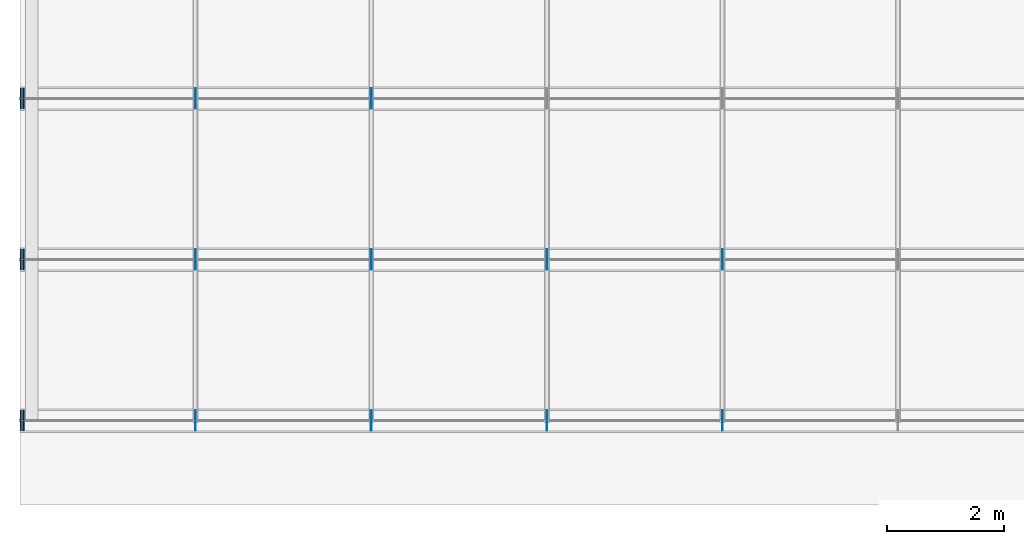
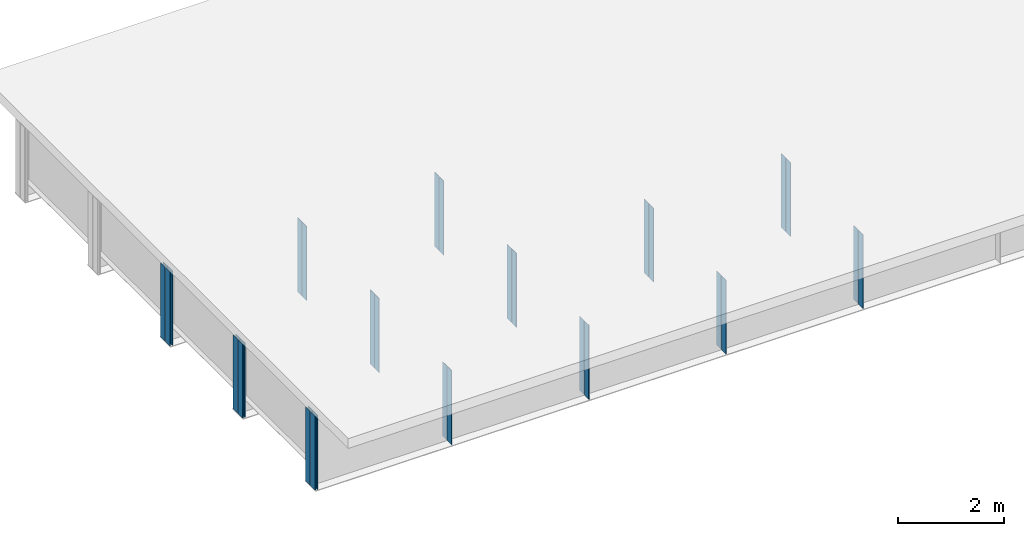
# One storey, part 3 of 17: 32 plates.
"""IFC4 building model written with IfcOpenShell, lengths in metres."""

from ifc_helpers import new_model, si_unit, frame, origin, origin_with_axes, origin_2d_with_axis, place, context, subcontext, project, spatial, rectangle, extrude, element, save


model = new_model("IFC4")

# Units and contexts
model_context = context("Model", 3, precision=1e-05, world=origin())
body_context = subcontext(model_context, "Body", "Model", "MODEL_VIEW")
ifc_project = project(units=[si_unit("LENGTHUNIT", "METRE"), si_unit("AREAUNIT", "SQUARE_METRE"), si_unit("VOLUMEUNIT", "CUBIC_METRE"), si_unit("PLANEANGLEUNIT", "RADIAN")], contexts=[model_context])

# Site, building, storey
site_placement = place(None, origin_with_axes())
site = spatial("IfcSite", under=ifc_project, at=site_placement, Name="Default Site")
building_placement = place(site_placement, origin_with_axes())
building = spatial("IfcBuilding", under=site, at=building_placement, Name="Bridge Structure")
storey_placement = place(building_placement, origin_with_axes())
storey = spatial("IfcBuildingStorey", under=building, at=storey_placement, Name="Superstructure")

# Plates
for number, where, z_axis, x_axis, name in (
    (1, (3.0, -5.409, -0.857), (0.0, 0.0, 1.0), (1.0, 0.0, 0.0), "Intermediate Stiffener 1"),
    (2, (3.0, -5.591, -0.857), (0.0, 0.0, 1.0), (1.0, 0.0, 0.0), "Intermediate Stiffener 1"),
    (3, (6.0, -5.409, -0.857), (0.0, 0.0, 1.0), (1.0, 0.0, 0.0), "Intermediate Stiffener 1"),
    (4, (6.0, -5.591, -0.857), (0.0, 0.0, 1.0), (1.0, 0.0, 0.0), "Intermediate Stiffener 1"),
    (5, (9.0, -5.409, -0.857), (0.0, 0.0, 1.0), (1.0, 0.0, 0.0), "Intermediate Stiffener 1"),
    (6, (9.0, -5.591, -0.857), (0.0, 0.0, 1.0), (1.0, 0.0, 0.0), "Intermediate Stiffener 1"),
    (7, (12.0, -5.409, -0.857), (0.0, 0.0, 1.0), (1.0, 0.0, 0.0), "Intermediate Stiffener 1"),
    (8, (12.0, -5.591, -0.857), (0.0, 0.0, 1.0), (1.0, 0.0, 0.0), "Intermediate Stiffener 1"),
):
    element("IfcPlate", number, at=place(storey_placement, frame(where, z_axis=z_axis, x_axis=x_axis)), inside=storey, Name=name, context=body_context, shape_type="SweptSolid", body=[
        extrude(rectangle(XDim=0.012, YDim=0.168, at=origin_2d_with_axis()), origin_with_axes(), (0.0, 0.0, 1.0), 1.714),
    ])
for number, where, z_axis, x_axis, name in (
    (9, (0.01, -5.409, -0.857), (0.0, 0.0, 1.0), (1.0, 0.0, 0.0), "End Stiffener 1"),
    (10, (0.01, -5.591, -0.857), (0.0, 0.0, 1.0), (1.0, 0.0, 0.0), "End Stiffener 1"),
    (11, (0.06, -5.409, -0.857), (0.0, 0.0, 1.0), (1.0, 0.0, 0.0), "End Stiffener 1"),
    (12, (0.06, -5.591, -0.857), (0.0, 0.0, 1.0), (1.0, 0.0, 0.0), "End Stiffener 1"),
):
    element("IfcPlate", number, at=place(storey_placement, frame(where, z_axis=z_axis, x_axis=x_axis)), inside=storey, Name=name, context=body_context, shape_type="SweptSolid", body=[
        extrude(rectangle(XDim=0.02, YDim=0.168, at=origin_2d_with_axis()), origin_with_axes(), (0.0, 0.0, 1.0), 1.714),
    ])
for number, where, z_axis, x_axis, name in (
    (13, (3.0, -2.6590000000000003, -0.857), (0.0, 0.0, 1.0), (1.0, 0.0, 0.0), "Intermediate Stiffener 2"),
    (14, (3.0, -2.841, -0.857), (0.0, 0.0, 1.0), (1.0, 0.0, 0.0), "Intermediate Stiffener 2"),
    (15, (6.0, -2.6590000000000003, -0.857), (0.0, 0.0, 1.0), (1.0, 0.0, 0.0), "Intermediate Stiffener 2"),
    (16, (6.0, -2.841, -0.857), (0.0, 0.0, 1.0), (1.0, 0.0, 0.0), "Intermediate Stiffener 2"),
    (17, (9.0, -2.6590000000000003, -0.857), (0.0, 0.0, 1.0), (1.0, 0.0, 0.0), "Intermediate Stiffener 2"),
    (18, (9.0, -2.841, -0.857), (0.0, 0.0, 1.0), (1.0, 0.0, 0.0), "Intermediate Stiffener 2"),
    (19, (12.0, -2.6590000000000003, -0.857), (0.0, 0.0, 1.0), (1.0, 0.0, 0.0), "Intermediate Stiffener 2"),
    (20, (12.0, -2.841, -0.857), (0.0, 0.0, 1.0), (1.0, 0.0, 0.0), "Intermediate Stiffener 2"),
):
    element("IfcPlate", number, at=place(storey_placement, frame(where, z_axis=z_axis, x_axis=x_axis)), inside=storey, Name=name, context=body_context, shape_type="SweptSolid", body=[
        extrude(rectangle(XDim=0.012, YDim=0.168, at=origin_2d_with_axis()), origin_with_axes(), (0.0, 0.0, 1.0), 1.714),
    ])
for number, where, z_axis, x_axis, name in (
    (21, (0.01, -2.6590000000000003, -0.857), (0.0, 0.0, 1.0), (1.0, 0.0, 0.0), "End Stiffener 2"),
    (22, (0.01, -2.841, -0.857), (0.0, 0.0, 1.0), (1.0, 0.0, 0.0), "End Stiffener 2"),
    (23, (0.06, -2.6590000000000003, -0.857), (0.0, 0.0, 1.0), (1.0, 0.0, 0.0), "End Stiffener 2"),
    (24, (0.06, -2.841, -0.857), (0.0, 0.0, 1.0), (1.0, 0.0, 0.0), "End Stiffener 2"),
):
    element("IfcPlate", number, at=place(storey_placement, frame(where, z_axis=z_axis, x_axis=x_axis)), inside=storey, Name=name, context=body_context, shape_type="SweptSolid", body=[
        extrude(rectangle(XDim=0.02, YDim=0.168, at=origin_2d_with_axis()), origin_with_axes(), (0.0, 0.0, 1.0), 1.714),
    ])
for number, where, z_axis, x_axis, name in (
    (25, (3.0, 0.091, -0.857), (0.0, 0.0, 1.0), (1.0, 0.0, 0.0), "Intermediate Stiffener 3"),
    (26, (3.0, -0.091, -0.857), (0.0, 0.0, 1.0), (1.0, 0.0, 0.0), "Intermediate Stiffener 3"),
    (27, (6.0, 0.091, -0.857), (0.0, 0.0, 1.0), (1.0, 0.0, 0.0), "Intermediate Stiffener 3"),
    (28, (6.0, -0.091, -0.857), (0.0, 0.0, 1.0), (1.0, 0.0, 0.0), "Intermediate Stiffener 3"),
):
    element("IfcPlate", number, at=place(storey_placement, frame(where, z_axis=z_axis, x_axis=x_axis)), inside=storey, Name=name, context=body_context, shape_type="SweptSolid", body=[
        extrude(rectangle(XDim=0.012, YDim=0.168, at=origin_2d_with_axis()), origin_with_axes(), (0.0, 0.0, 1.0), 1.714),
    ])
for number, where, z_axis, x_axis, name in (
    (29, (0.01, 0.091, -0.857), (0.0, 0.0, 1.0), (1.0, 0.0, 0.0), "End Stiffener 3"),
    (30, (0.01, -0.091, -0.857), (0.0, 0.0, 1.0), (1.0, 0.0, 0.0), "End Stiffener 3"),
    (31, (0.06, 0.091, -0.857), (0.0, 0.0, 1.0), (1.0, 0.0, 0.0), "End Stiffener 3"),
    (32, (0.06, -0.091, -0.857), (0.0, 0.0, 1.0), (1.0, 0.0, 0.0), "End Stiffener 3"),
):
    element("IfcPlate", number, at=place(storey_placement, frame(where, z_axis=z_axis, x_axis=x_axis)), inside=storey, Name=name, context=body_context, shape_type="SweptSolid", body=[
        extrude(rectangle(XDim=0.02, YDim=0.168, at=origin_2d_with_axis()), origin_with_axes(), (0.0, 0.0, 1.0), 1.714),
    ])

save(model, "model.ifc")
